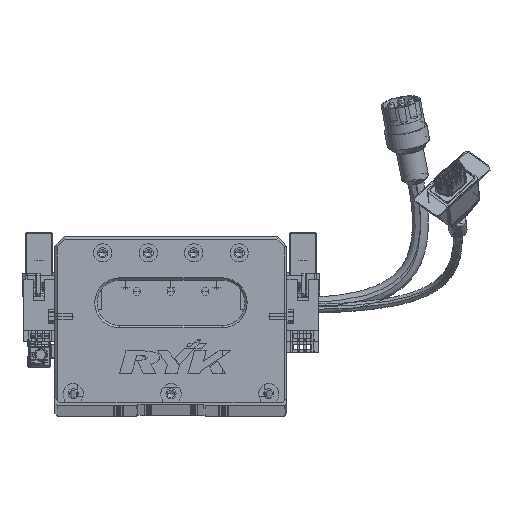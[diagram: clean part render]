
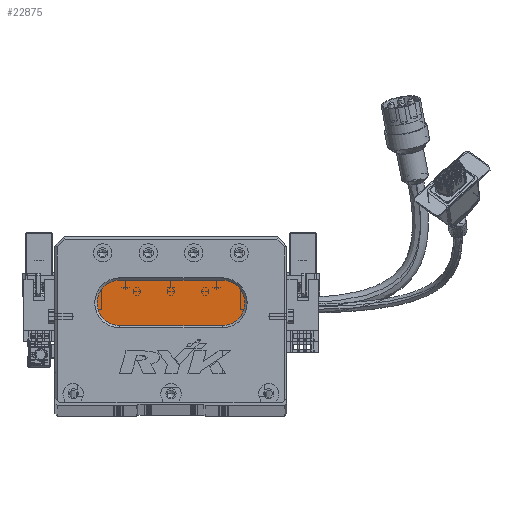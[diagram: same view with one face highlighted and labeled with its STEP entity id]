
A CAD part, top view. The second image highlights one B-rep face of the part: STEP entity #22875.
In plain terms, the highlighted planar face has unit normal (0, 0, 1) as drawn and (0, 0, -1) by its records, which use the part's own axes.
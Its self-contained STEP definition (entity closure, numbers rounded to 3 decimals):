
#1060 = CARTESIAN_POINT ( 'NONE',  ( 73.5, 44., 13. ) ) ;
#6234 = CIRCLE ( 'NONE', #39817, 10. ) ;
#6279 = VERTEX_POINT ( 'NONE', #20392 ) ;
#7888 = DIRECTION ( 'NONE',  ( -1., 0., 0. ) ) ;
#8820 = DIRECTION ( 'NONE',  ( 0., 0., -1. ) ) ;
#9161 = LINE ( 'NONE', #28093, #15612 ) ;
#9726 = VERTEX_POINT ( 'NONE', #39076 ) ;
#15612 = VECTOR ( 'NONE', #76028, 1000. ) ;
#20206 = EDGE_CURVE ( 'NONE', #69762, #9726, #9161, .T. ) ;
#20392 = CARTESIAN_POINT ( 'NONE',  ( 28.5, 34., 13. ) ) ;
#22314 = ORIENTED_EDGE ( 'NONE', *, *, #20206, .T. ) ;
#22857 = CARTESIAN_POINT ( 'NONE',  ( 28.5, 44., 13. ) ) ;
#22875 = ADVANCED_FACE ( 'NONE', ( #53075 ), #75422, .T. ) ;
#24120 = CARTESIAN_POINT ( 'NONE',  ( 28.5, 44., 13. ) ) ;
#27674 = AXIS2_PLACEMENT_3D ( 'NONE', #22857, #8820, #35721 ) ;
#28093 = CARTESIAN_POINT ( 'NONE',  ( 73.5, 54., 13. ) ) ;
#30969 = DIRECTION ( 'NONE',  ( 0., 0., -1. ) ) ;
#32354 = CIRCLE ( 'NONE', #63094, 10. ) ;
#32460 = LINE ( 'NONE', #85137, #84641 ) ;
#33734 = CARTESIAN_POINT ( 'NONE',  ( 73.5, 44., 13. ) ) ;
#35721 = DIRECTION ( 'NONE',  ( -1., 0., 0. ) ) ;
#36484 = EDGE_CURVE ( 'NONE', #56346, #6279, #32460, .T. ) ;
#39076 = CARTESIAN_POINT ( 'NONE',  ( 73.5, 54., 13. ) ) ;
#39817 = AXIS2_PLACEMENT_3D ( 'NONE', #24120, #30969, #52444 ) ;
#40381 = ORIENTED_EDGE ( 'NONE', *, *, #50234, .T. ) ;
#42613 = VERTEX_POINT ( 'NONE', #72003 ) ;
#47179 = DIRECTION ( 'NONE',  ( 0., 0., -1. ) ) ;
#48208 = ORIENTED_EDGE ( 'NONE', *, *, #58470, .T. ) ;
#48782 = DIRECTION ( 'NONE',  ( 0., 0., -1. ) ) ;
#50234 = EDGE_CURVE ( 'NONE', #42613, #69762, #70926, .T. ) ;
#51653 = EDGE_CURVE ( 'NONE', #6279, #42613, #6234, .T. ) ;
#52444 = DIRECTION ( 'NONE',  ( -1., 0., 0. ) ) ;
#53075 = FACE_OUTER_BOUND ( 'NONE', #77609, .T. ) ;
#55225 = DIRECTION ( 'NONE',  ( -1., 0., 0. ) ) ;
#56346 = VERTEX_POINT ( 'NONE', #85658 ) ;
#58470 = EDGE_CURVE ( 'NONE', #9726, #56346, #32354, .T. ) ;
#60585 = CARTESIAN_POINT ( 'NONE',  ( 28.5, 54., 13. ) ) ;
#63094 = AXIS2_PLACEMENT_3D ( 'NONE', #1060, #48782, #7888 ) ;
#69762 = VERTEX_POINT ( 'NONE', #60585 ) ;
#70926 = CIRCLE ( 'NONE', #27674, 10. ) ;
#72003 = CARTESIAN_POINT ( 'NONE',  ( 18.5, 44., 13. ) ) ;
#75422 = PLANE ( 'NONE',  #83054 ) ;
#75773 = ORIENTED_EDGE ( 'NONE', *, *, #51653, .T. ) ;
#76028 = DIRECTION ( 'NONE',  ( 1., 0., 0. ) ) ;
#77609 = EDGE_LOOP ( 'NONE', ( #48208, #83364, #75773, #40381, #22314 ) ) ;
#83054 = AXIS2_PLACEMENT_3D ( 'NONE', #33734, #47179, #55225 ) ;
#83364 = ORIENTED_EDGE ( 'NONE', *, *, #36484, .T. ) ;
#84533 = DIRECTION ( 'NONE',  ( -1., 0., 0. ) ) ;
#84641 = VECTOR ( 'NONE', #84533, 1000. ) ;
#85137 = CARTESIAN_POINT ( 'NONE',  ( 73.5, 34., 13. ) ) ;
#85658 = CARTESIAN_POINT ( 'NONE',  ( 73.5, 34., 13. ) ) ;
